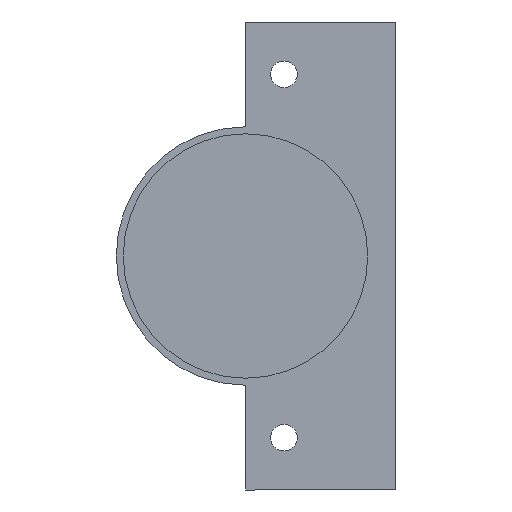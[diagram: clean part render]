
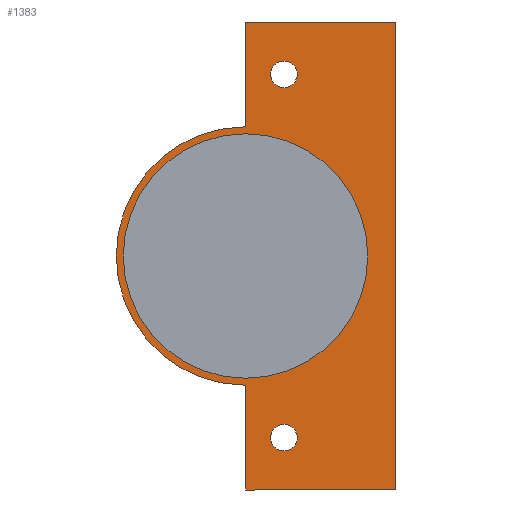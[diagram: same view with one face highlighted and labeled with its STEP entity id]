
A CAD part, front view. The second image highlights one B-rep face of the part: STEP entity #1383.
In plain terms, the highlighted planar face has unit normal (0, -1, 0).
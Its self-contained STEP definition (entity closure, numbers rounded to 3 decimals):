
#3 = CARTESIAN_POINT ( 'NONE',  ( 8., -38.5, -26. ) ) ;
#9 = CARTESIAN_POINT ( 'NONE',  ( 2.5, -38.5, 33.5 ) ) ;
#14 = CARTESIAN_POINT ( 'NONE',  ( 2.5, -38.5, 0. ) ) ;
#33 = FACE_OUTER_BOUND ( 'NONE', #534, .T. ) ;
#34 = CIRCLE ( 'NONE', #568, 18.5 ) ;
#39 = EDGE_CURVE ( 'NONE', #1265, #769, #838, .T. ) ;
#73 = EDGE_CURVE ( 'NONE', #622, #974, #1010, .T. ) ;
#84 = CARTESIAN_POINT ( 'NONE',  ( 24., -38.5, 33.5 ) ) ;
#112 = DIRECTION ( 'NONE',  ( -1., 0., 0. ) ) ;
#124 = ORIENTED_EDGE ( 'NONE', *, *, #785, .F. ) ;
#135 = CARTESIAN_POINT ( 'NONE',  ( 2.5, -38.5, 0. ) ) ;
#137 = CIRCLE ( 'NONE', #233, 17.5 ) ;
#155 = VERTEX_POINT ( 'NONE', #9 ) ;
#177 = ORIENTED_EDGE ( 'NONE', *, *, #1350, .T. ) ;
#186 = EDGE_CURVE ( 'NONE', #1207, #263, #137, .T. ) ;
#230 = ORIENTED_EDGE ( 'NONE', *, *, #753, .F. ) ;
#233 = AXIS2_PLACEMENT_3D ( 'NONE', #14, #551, #112 ) ;
#250 = EDGE_CURVE ( 'NONE', #917, #484, #1114, .T. ) ;
#252 = LINE ( 'NONE', #843, #1366 ) ;
#255 = AXIS2_PLACEMENT_3D ( 'NONE', #768, #978, #569 ) ;
#263 = VERTEX_POINT ( 'NONE', #663 ) ;
#279 = ORIENTED_EDGE ( 'NONE', *, *, #627, .T. ) ;
#361 = PLANE ( 'NONE',  #954 ) ;
#366 = EDGE_LOOP ( 'NONE', ( #230, #746 ) ) ;
#373 = CARTESIAN_POINT ( 'NONE',  ( 8., -38.5, 26. ) ) ;
#406 = CARTESIAN_POINT ( 'NONE',  ( 24., -38.5, 33.5 ) ) ;
#427 = DIRECTION ( 'NONE',  ( 0., 1., 0. ) ) ;
#428 = VERTEX_POINT ( 'NONE', #708 ) ;
#432 = CIRCLE ( 'NONE', #1136, 1.9 ) ;
#443 = CARTESIAN_POINT ( 'NONE',  ( 24., -38.5, -33.5 ) ) ;
#450 = CARTESIAN_POINT ( 'NONE',  ( 2.5, -38.5, -33.5 ) ) ;
#453 = DIRECTION ( 'NONE',  ( -1., 0., 0. ) ) ;
#484 = VERTEX_POINT ( 'NONE', #1152 ) ;
#514 = DIRECTION ( 'NONE',  ( 0., 0., -1. ) ) ;
#515 = ORIENTED_EDGE ( 'NONE', *, *, #939, .F. ) ;
#534 = EDGE_LOOP ( 'NONE', ( #124, #623, #709, #515, #1389, #931 ) ) ;
#537 = FACE_BOUND ( 'NONE', #572, .T. ) ;
#538 = DIRECTION ( 'NONE',  ( -1., 0., 0. ) ) ;
#542 = DIRECTION ( 'NONE',  ( 0., 1., 0. ) ) ;
#546 = AXIS2_PLACEMENT_3D ( 'NONE', #685, #1341, #796 ) ;
#550 = ORIENTED_EDGE ( 'NONE', *, *, #893, .T. ) ;
#551 = DIRECTION ( 'NONE',  ( 0., -1., 0. ) ) ;
#568 = AXIS2_PLACEMENT_3D ( 'NONE', #850, #542, #1293 ) ;
#569 = DIRECTION ( 'NONE',  ( -1., 0., 0. ) ) ;
#572 = EDGE_LOOP ( 'NONE', ( #177, #279 ) ) ;
#594 = VERTEX_POINT ( 'NONE', #957 ) ;
#613 = FACE_BOUND ( 'NONE', #1017, .T. ) ;
#622 = VERTEX_POINT ( 'NONE', #406 ) ;
#623 = ORIENTED_EDGE ( 'NONE', *, *, #73, .F. ) ;
#627 = EDGE_CURVE ( 'NONE', #640, #594, #1317, .T. ) ;
#636 = CARTESIAN_POINT ( 'NONE',  ( 2.5, -38.5, -33.5 ) ) ;
#640 = VERTEX_POINT ( 'NONE', #1175 ) ;
#663 = CARTESIAN_POINT ( 'NONE',  ( -15., -38.5, 0. ) ) ;
#685 = CARTESIAN_POINT ( 'NONE',  ( 8., -38.5, -26. ) ) ;
#695 = CARTESIAN_POINT ( 'NONE',  ( 24., -38.5, -33.5 ) ) ;
#703 = LINE ( 'NONE', #443, #1177 ) ;
#708 = CARTESIAN_POINT ( 'NONE',  ( 2.5, -38.5, 18.5 ) ) ;
#709 = ORIENTED_EDGE ( 'NONE', *, *, #1134, .F. ) ;
#731 = DIRECTION ( 'NONE',  ( 1., 0., 0. ) ) ;
#746 = ORIENTED_EDGE ( 'NONE', *, *, #186, .F. ) ;
#753 = EDGE_CURVE ( 'NONE', #263, #1207, #888, .T. ) ;
#768 = CARTESIAN_POINT ( 'NONE',  ( 2.5, -38.5, 0. ) ) ;
#769 = VERTEX_POINT ( 'NONE', #1086 ) ;
#781 = DIRECTION ( 'NONE',  ( 0., 1., 0. ) ) ;
#785 = EDGE_CURVE ( 'NONE', #974, #1265, #703, .T. ) ;
#796 = DIRECTION ( 'NONE',  ( -1., 0., 0. ) ) ;
#819 = VECTOR ( 'NONE', #1109, 1000. ) ;
#838 = LINE ( 'NONE', #636, #909 ) ;
#843 = CARTESIAN_POINT ( 'NONE',  ( 2.5, -38.5, 33.5 ) ) ;
#850 = CARTESIAN_POINT ( 'NONE',  ( 2.5, -38.5, 0. ) ) ;
#852 = LINE ( 'NONE', #1325, #819 ) ;
#888 = CIRCLE ( 'NONE', #255, 17.5 ) ;
#893 = EDGE_CURVE ( 'NONE', #484, #917, #1334, .T. ) ;
#895 = CARTESIAN_POINT ( 'NONE',  ( 9.9, -38.5, -26. ) ) ;
#909 = VECTOR ( 'NONE', #1268, 1000. ) ;
#917 = VERTEX_POINT ( 'NONE', #895 ) ;
#931 = ORIENTED_EDGE ( 'NONE', *, *, #39, .F. ) ;
#939 = EDGE_CURVE ( 'NONE', #428, #155, #852, .T. ) ;
#944 = DIRECTION ( 'NONE',  ( -1., 0., 0. ) ) ;
#954 = AXIS2_PLACEMENT_3D ( 'NONE', #135, #1215, #1125 ) ;
#957 = CARTESIAN_POINT ( 'NONE',  ( 6.1, -38.5, 26. ) ) ;
#974 = VERTEX_POINT ( 'NONE', #695 ) ;
#978 = DIRECTION ( 'NONE',  ( 0., -1., 0. ) ) ;
#1003 = DIRECTION ( 'NONE',  ( -1., 0., 0. ) ) ;
#1010 = LINE ( 'NONE', #84, #1161 ) ;
#1017 = EDGE_LOOP ( 'NONE', ( #550, #1063 ) ) ;
#1062 = CARTESIAN_POINT ( 'NONE',  ( 8., -38.5, 26. ) ) ;
#1063 = ORIENTED_EDGE ( 'NONE', *, *, #250, .T. ) ;
#1086 = CARTESIAN_POINT ( 'NONE',  ( 2.5, -38.5, -18.5 ) ) ;
#1109 = DIRECTION ( 'NONE',  ( 0., 0., 1. ) ) ;
#1114 = CIRCLE ( 'NONE', #1220, 1.9 ) ;
#1125 = DIRECTION ( 'NONE',  ( -1., 0., 0. ) ) ;
#1134 = EDGE_CURVE ( 'NONE', #155, #622, #252, .T. ) ;
#1136 = AXIS2_PLACEMENT_3D ( 'NONE', #373, #781, #1003 ) ;
#1143 = FACE_BOUND ( 'NONE', #366, .T. ) ;
#1145 = EDGE_CURVE ( 'NONE', #769, #428, #34, .T. ) ;
#1152 = CARTESIAN_POINT ( 'NONE',  ( 6.1, -38.5, -26. ) ) ;
#1161 = VECTOR ( 'NONE', #514, 1000. ) ;
#1166 = DIRECTION ( 'NONE',  ( 0., 1., 0. ) ) ;
#1175 = CARTESIAN_POINT ( 'NONE',  ( 9.9, -38.5, 26. ) ) ;
#1177 = VECTOR ( 'NONE', #453, 1000. ) ;
#1193 = CARTESIAN_POINT ( 'NONE',  ( 20., -38.5, 0. ) ) ;
#1207 = VERTEX_POINT ( 'NONE', #1193 ) ;
#1215 = DIRECTION ( 'NONE',  ( 0., 1., 0. ) ) ;
#1220 = AXIS2_PLACEMENT_3D ( 'NONE', #3, #427, #538 ) ;
#1265 = VERTEX_POINT ( 'NONE', #450 ) ;
#1268 = DIRECTION ( 'NONE',  ( 0., 0., 1. ) ) ;
#1293 = DIRECTION ( 'NONE',  ( -1., 0., 0. ) ) ;
#1317 = CIRCLE ( 'NONE', #1365, 1.9 ) ;
#1325 = CARTESIAN_POINT ( 'NONE',  ( 2.5, -38.5, 18.5 ) ) ;
#1334 = CIRCLE ( 'NONE', #546, 1.9 ) ;
#1341 = DIRECTION ( 'NONE',  ( 0., 1., 0. ) ) ;
#1350 = EDGE_CURVE ( 'NONE', #594, #640, #432, .T. ) ;
#1365 = AXIS2_PLACEMENT_3D ( 'NONE', #1062, #1166, #944 ) ;
#1366 = VECTOR ( 'NONE', #731, 1000. ) ;
#1383 = ADVANCED_FACE ( 'NONE', ( #613, #537, #33, #1143 ), #361, .F. ) ;
#1389 = ORIENTED_EDGE ( 'NONE', *, *, #1145, .F. ) ;
